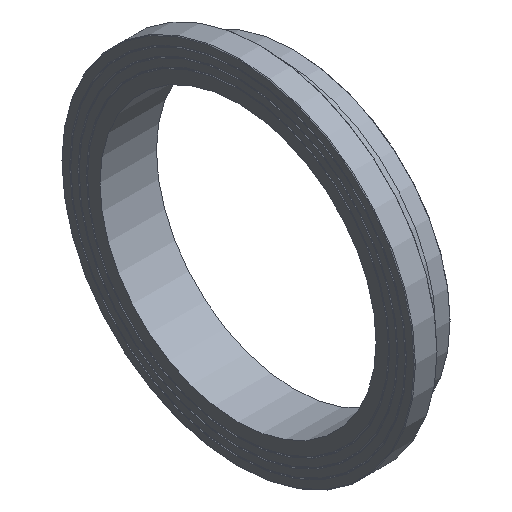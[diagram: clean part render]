
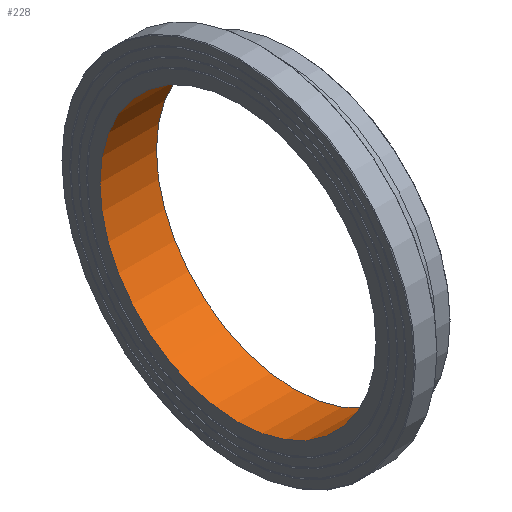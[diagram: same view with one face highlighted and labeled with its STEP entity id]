
A CAD part, isometric view. The second image highlights one B-rep face of the part: STEP entity #228.
In plain terms, the highlighted cylindrical face has radius 312.9 mm (diameter 625.8 mm), a full revolution.
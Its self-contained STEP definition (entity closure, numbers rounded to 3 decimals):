
#33=CYLINDRICAL_SURFACE('',#274,312.9);
#50=ORIENTED_EDGE('',*,*,#79,.F.);
#51=ORIENTED_EDGE('',*,*,#76,.T.);
#76=EDGE_CURVE('',#96,#96,#116,.T.);
#79=EDGE_CURVE('',#99,#99,#119,.T.);
#96=VERTEX_POINT('',#383);
#99=VERTEX_POINT('',#390);
#116=CIRCLE('',#257,312.9);
#119=CIRCLE('',#261,312.9);
#150=EDGE_LOOP('',(#50));
#151=EDGE_LOOP('',(#51));
#190=FACE_BOUND('',#150,.T.);
#191=FACE_BOUND('',#151,.T.);
#228=ADVANCED_FACE('',(#190,#191),#33,.F.);
#257=AXIS2_PLACEMENT_3D('',#382,#303,#304);
#261=AXIS2_PLACEMENT_3D('',#389,#311,#312);
#274=AXIS2_PLACEMENT_3D('',#410,#337,#338);
#303=DIRECTION('',(-1.,0.,0.));
#304=DIRECTION('',(0.,0.,1.));
#311=DIRECTION('',(-1.,0.,0.));
#312=DIRECTION('',(0.,0.,1.));
#337=DIRECTION('',(-1.,0.,0.));
#338=DIRECTION('',(0.,0.,1.));
#382=CARTESIAN_POINT('',(0.,0.,0.));
#383=CARTESIAN_POINT('',(0.,0.,312.9));
#389=CARTESIAN_POINT('',(128.,0.,0.));
#390=CARTESIAN_POINT('',(128.,0.,312.9));
#410=CARTESIAN_POINT('',(60.,0.,0.));
